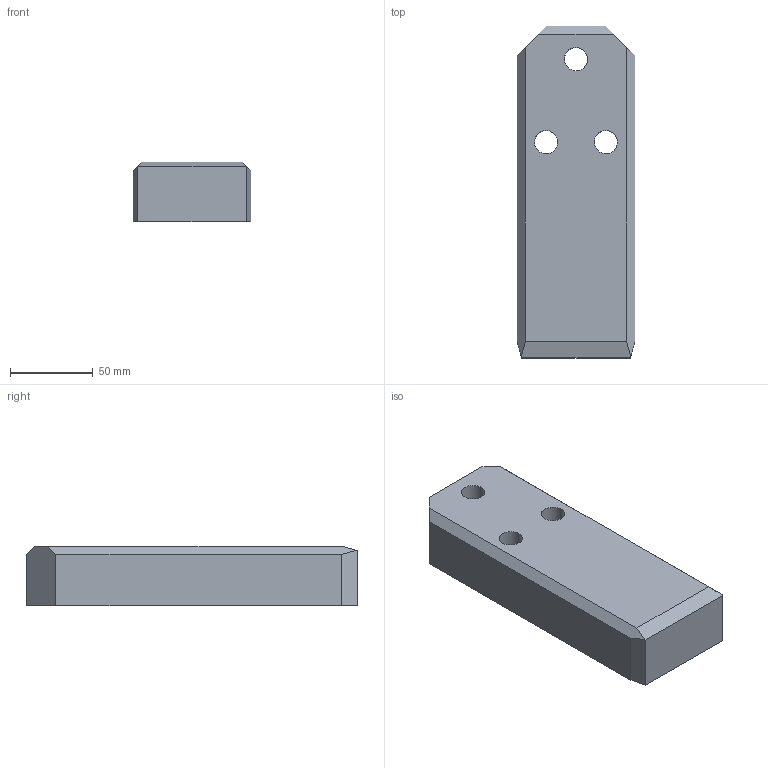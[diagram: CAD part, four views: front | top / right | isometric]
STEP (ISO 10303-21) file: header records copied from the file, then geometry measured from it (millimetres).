
FILE_DESCRIPTION(('CATIA V5 STEP Exchange'),'2;1');
FILE_NAME('C:\Users\borellobunino\Desktop\3D X SITO CF\A927\GSB_OILLESS_G2290507120036\STEP-2.03\A927-71X200X36.stp','2019-07-14T19:46:44+00:00',('none'),('none'),'CATIA Version 5 Release 20 GA (IN-10)','CATIA V5 STEP AP203','none');
FILE_SCHEMA(('CONFIG_CONTROL_DESIGN'));
Length unit declared in the file: millimetre
Products named in the file (1): A927-71X200X36
Bounding box: 71 x 200 x 36 mm (x, y, z)
Volume: 468051.4 mm3; surface area: 49439.5 mm2
Topology: 1 solids, 1 shells, 35 faces, 84 edges, 54 vertices
Faces by surface type: plane 17, cylinder 12, cone 6
Entity records: 1296 total; most frequent: CARTESIAN_POINT 450, ORIENTED_EDGE 168, DIRECTION 142, EDGE_CURVE 84, AXIS2_PLACEMENT_3D 54, VECTOR 54, LINE 54, VERTEX_POINT 54
